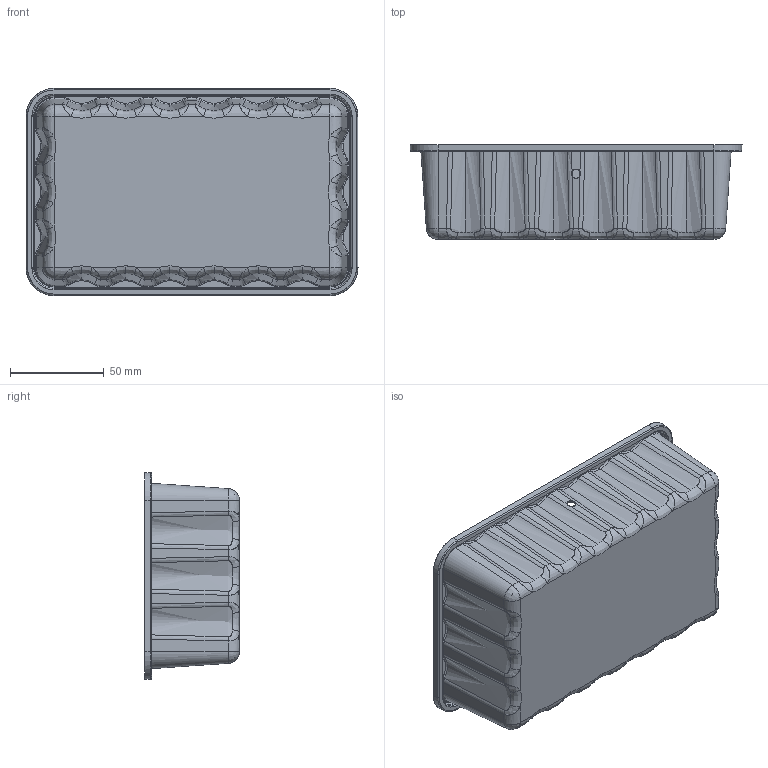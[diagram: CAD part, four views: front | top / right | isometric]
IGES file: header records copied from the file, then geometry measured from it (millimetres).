
Start section: SolidWorks IGES file using analytic representation for surfaces
Global section: file name: C:\Working\Micro_Cases\1050_OEM_BTM.IGS; native system: SolidWorks 2007; preprocessor: SolidWorks 2007; author: elopez; date: 081027.165841; units: inch
Bounding box: 177.29 x 50.55 x 110.64 mm (x, y, z)
Surface area: 87311.3 mm2 (no closed solid volume)
Topology: 0 solids, 0 shells, 578 faces, 4588 edges, 4584 vertices
Faces by surface type: bspline 400, revolution 178
